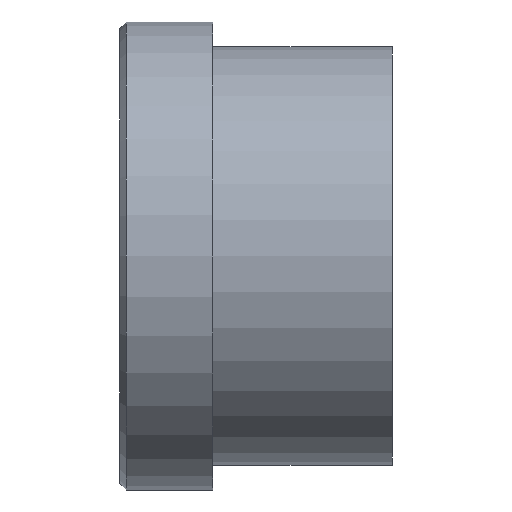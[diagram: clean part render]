
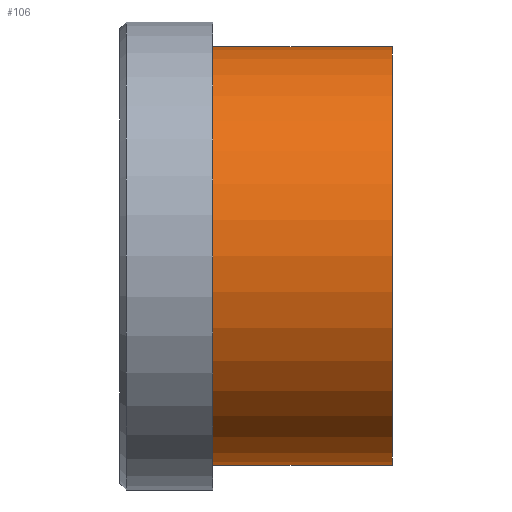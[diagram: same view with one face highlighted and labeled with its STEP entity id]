
A CAD part, front view. The second image highlights one B-rep face of the part: STEP entity #106.
In plain terms, the highlighted cylindrical face has radius 157.5 mm (diameter 315 mm), a full revolution.
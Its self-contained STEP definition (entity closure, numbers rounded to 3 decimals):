
#13=CYLINDRICAL_SURFACE($,#123,157.5);
#25=FACE_BOUND($,#45,.T.);
#32=FACE_OUTER_BOUND($,#44,.T.);
#44=EDGE_LOOP($,(#84));
#45=EDGE_LOOP($,(#85));
#55=CIRCLE($,#122,157.5);
#56=CIRCLE($,#124,157.5);
#63=VERTEX_POINT($,#178);
#64=VERTEX_POINT($,#181);
#71=EDGE_CURVE($,#63,#63,#55,.T.);
#72=EDGE_CURVE($,#64,#64,#56,.T.);
#84=ORIENTED_EDGE($,*,*,#72,.F.);
#85=ORIENTED_EDGE($,*,*,#71,.T.);
#106=ADVANCED_FACE($,(#32,#25),#13,.T.);
#122=AXIS2_PLACEMENT_3D($,#179,#150,#151);
#123=AXIS2_PLACEMENT_3D($,#180,#152,#153);
#124=AXIS2_PLACEMENT_3D($,#182,#154,#155);
#150=DIRECTION('center_axis',(1.,0.,0.));
#151=DIRECTION('ref_axis',(0.,1.,0.));
#152=DIRECTION('center_axis',(1.,0.,0.));
#153=DIRECTION('ref_axis',(0.,1.,0.));
#154=DIRECTION('center_axis',(1.,0.,0.));
#155=DIRECTION('ref_axis',(0.,1.,0.));
#178=CARTESIAN_POINT('',(70.,157.5,0.));
#179=CARTESIAN_POINT('Origin',(70.,0.,0.));
#180=CARTESIAN_POINT('Origin',(137.5,0.,0.));
#181=CARTESIAN_POINT('',(205.,157.5,0.));
#182=CARTESIAN_POINT('Origin',(205.,0.,0.));
